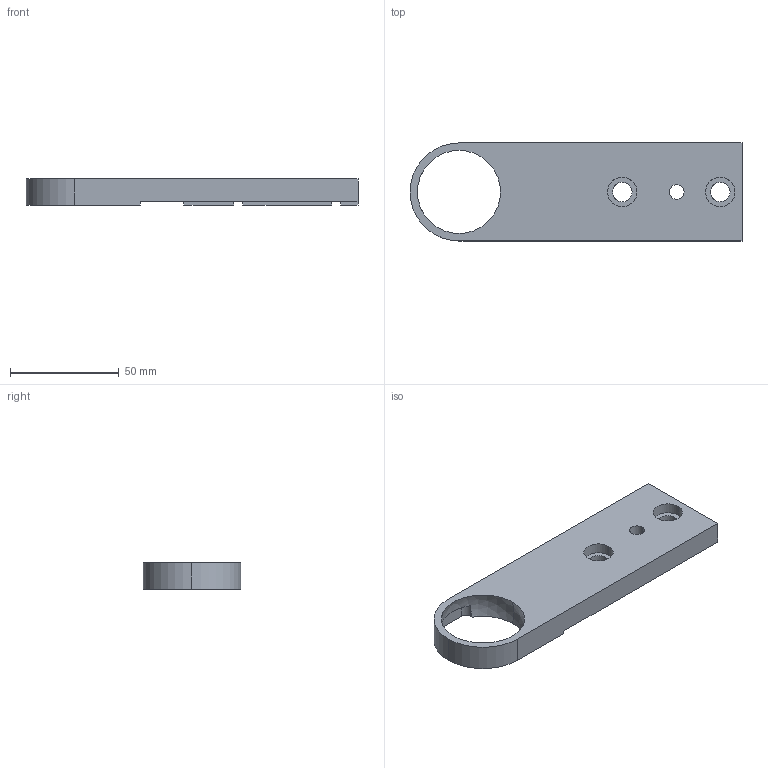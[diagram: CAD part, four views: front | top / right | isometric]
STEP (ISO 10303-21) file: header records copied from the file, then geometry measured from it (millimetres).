
FILE_DESCRIPTION (( 'STEP AP203' ), '1' );
FILE_NAME ('356.203.103.STEP', '2015-05-20T13:15:38', ( '' ), ( '' ), 'SwSTEP 2.0', 'SolidWorks 2012', '' );
FILE_SCHEMA (( 'CONFIG_CONTROL_DESIGN' ));
Length unit declared in the file: millimetre
Products named in the file (1): 356.203.103
Bounding box: 152.5 x 45 x 12 mm (x, y, z)
Volume: 56258 mm3; surface area: 17679.1 mm2
Topology: 1 solids, 1 shells, 45 faces, 133 edges, 88 vertices
Faces by surface type: plane 27, cylinder 16, sphere 2
Entity records: 1594 total; most frequent: CARTESIAN_POINT 273, DIRECTION 271, ORIENTED_EDGE 258, EDGE_CURVE 129, AXIS2_PLACEMENT_3D 100, VERTEX_POINT 86, LINE 71, VECTOR 71
